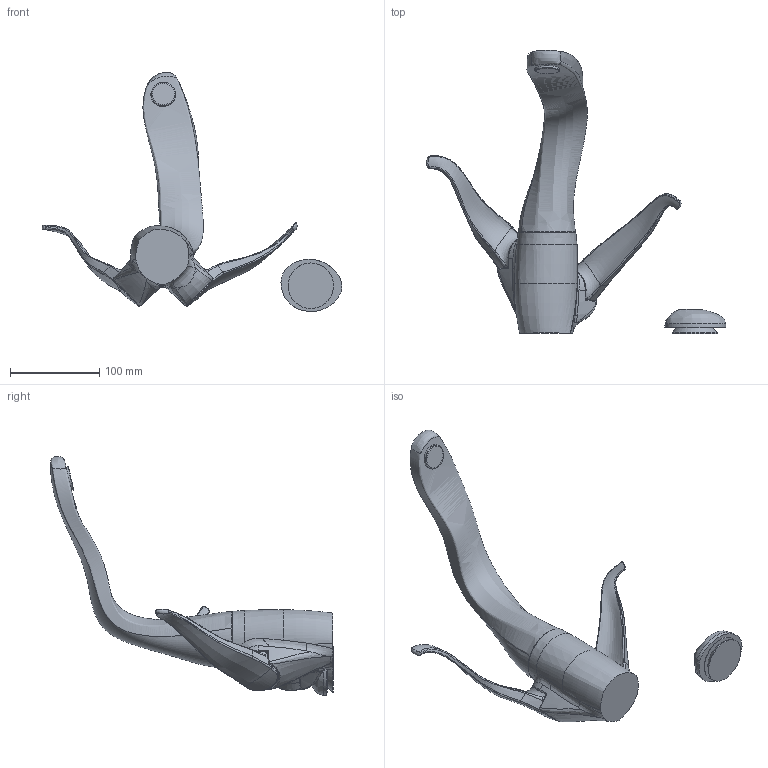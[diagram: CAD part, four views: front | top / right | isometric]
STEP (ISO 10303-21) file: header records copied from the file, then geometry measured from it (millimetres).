
FILE_DESCRIPTION (( 'STEP AP203' ), '1' );
FILE_NAME ('8222F(2016)+8225F(2016)+07452203.STEP', '2017-03-09T06:01:33', ( '' ), ( '' ), 'SwSTEP 2.0', 'SolidWorks 2016', '' );
FILE_SCHEMA (( 'CONFIG_CONTROL_DESIGN' ));
Length unit declared in the file: millimetre
Products named in the file (1): 8222F(2016)+8225F(2016)+07452203
Bounding box: 335.43 x 316.87 x 267.68 mm (x, y, z)
Volume: 1064106.7 mm3; surface area: 116529.6 mm2
Topology: 2 solids, 2 shells, 179 faces, 433 edges, 266 vertices
Faces by surface type: bspline 141, plane 11, cone 10, torus 9, cylinder 4, sphere 4
Full cylindrical faces by diameter (mm): 27.6 x1, 51 x2, 63 x1
Entity records: 154228 total; most frequent: CARTESIAN_POINT 151195, ORIENTED_EDGE 838, EDGE_CURVE 419, B_SPLINE_CURVE_WITH_KNOTS 350, VERTEX_POINT 261, EDGE_LOOP 196, DIRECTION 195, FACE_OUTER_BOUND 186
